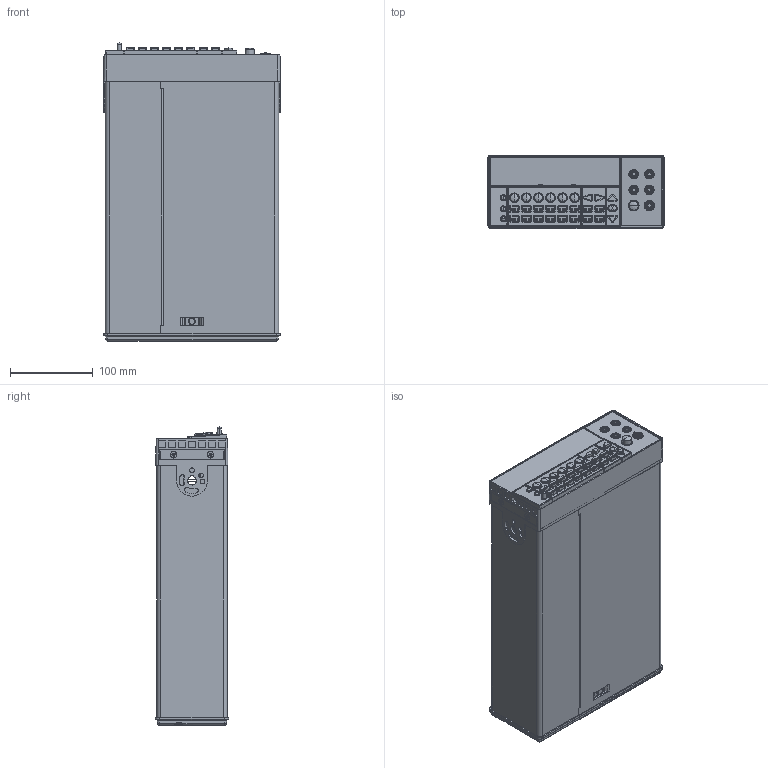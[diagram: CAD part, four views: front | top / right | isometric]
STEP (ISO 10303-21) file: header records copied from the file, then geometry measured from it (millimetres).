
FILE_DESCRIPTION (( 'STEP AP203' ), '1' );
FILE_NAME ('KI_2100.STEP', '2017-05-02T09:47:48', ( 'Amy' ), ( '' ), 'SwSTEP 2.0', 'SolidWorks 2012', '' );
FILE_SCHEMA (( 'CONFIG_CONTROL_DESIGN' ));
Products named in the file (1): KI_2100
Bounding box: 214.22 x 88.6 x 360.75 mm (x, y, z)
Surface area: 585563.4 mm2 (no closed solid volume)
Topology: 0 solids, 108 shells, 1784 faces, 7085 edges, 5285 vertices
Faces by surface type: plane 693, cylinder 599, cone 220, torus 157, bspline 103, sphere 12
Entity records: 77451 total; most frequent: CARTESIAN_POINT 22391, DIRECTION 10876, ORIENTED_EDGE 10331, EDGE_CURVE 7058, VERTEX_POINT 5284, VECTOR 3888, LINE 3888, AXIS2_PLACEMENT_3D 3494
